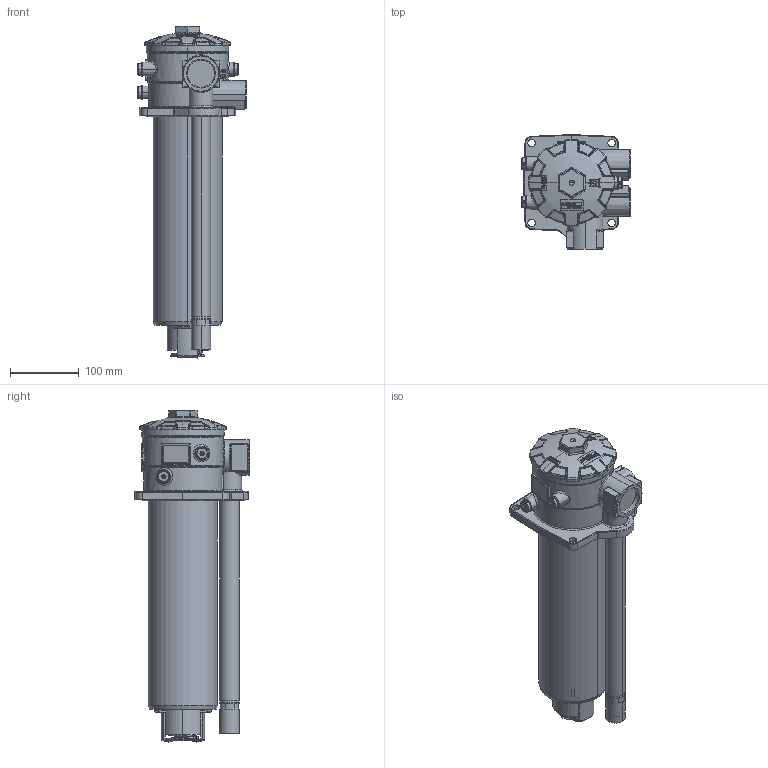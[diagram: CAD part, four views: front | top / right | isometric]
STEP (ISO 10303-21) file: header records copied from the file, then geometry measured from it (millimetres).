
FILE_DESCRIPTION((''),'2;1');
FILE_NAME('1000522621','2024-09-09T17:29:04',('g.topp'),(''),'CREO PARAMETRIC BY PTC INC, 2023254','CREO PARAMETRIC BY PTC INC, 2023254','');
FILE_SCHEMA(('AUTOMOTIVE_DESIGN { 1 0 10303 214 1 1 1 1 }'));
Length unit declared in the file: millimetre
Products named in the file (1): 1000522621
Bounding box: 158.25 x 167.5 x 484.1 mm (x, y, z)
Volume: 4304975.1 mm3; surface area: 457416.8 mm2
Topology: 1 solids, 10 shells, 2340 faces, 6068 edges, 3791 vertices
Faces by surface type: plane 994, cylinder 446, bspline 441, torus 211, sphere 112, cone 105, extrusion 31
Entity records: 115427 total; most frequent: CARTESIAN_POINT 43532, ORIENTED_EDGE 12064, DIRECTION 10331, PRESENTATION_STYLE_ASSIGNMENT 6033, STYLED_ITEM 6033, CURVE_STYLE 6032, EDGE_CURVE 6032, AXIS2_PLACEMENT_3D 4164
